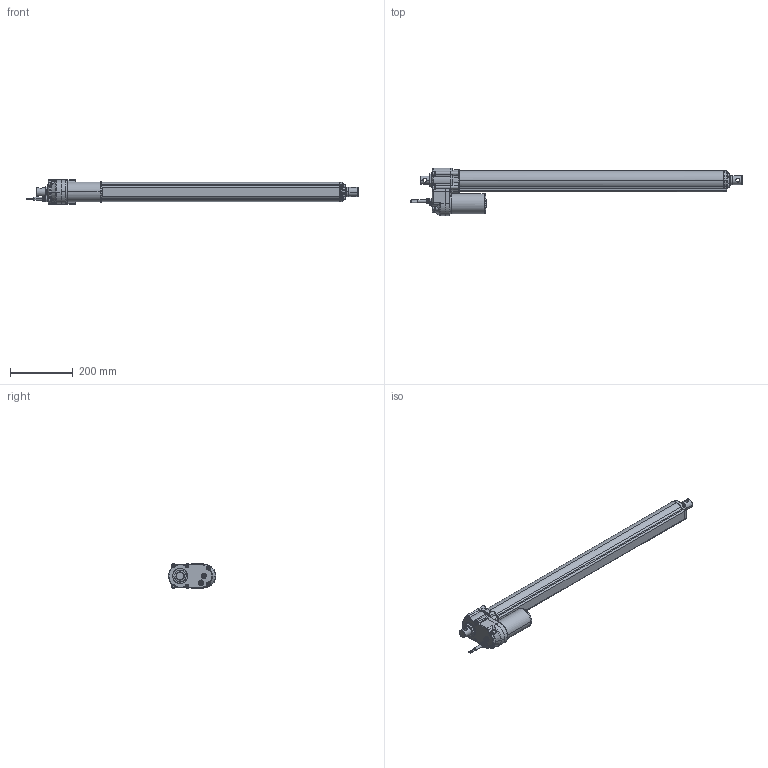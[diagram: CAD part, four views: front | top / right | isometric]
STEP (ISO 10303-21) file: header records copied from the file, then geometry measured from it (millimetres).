
FILE_DESCRIPTION(('STEP AP203'),'1');
FILE_NAME('LINACT-33P-700MM.stp','2025-11-20T12:31:31',('Linear Actuators S.A.'),('Linear Actuators South Africa (Pty) Ltd'),'Spatial InterOp 3D',' ',' ');
FILE_SCHEMA(('CONFIG_CONTROL_DESIGN'));
Length unit declared in the file: millimetre
Products named in the file (1): 1
Bounding box: 1061.27 x 151.4 x 79 mm (x, y, z)
Volume: 3953430.5 mm3; surface area: 269174.2 mm2
Topology: 1 solids, 1 shells, 940 faces, 2391 edges, 1467 vertices
Faces by surface type: torus 294, plane 239, cylinder 234, bspline 105, cone 66, sphere 2
Entity records: 41074 total; most frequent: CARTESIAN_POINT 19629, ORIENTED_EDGE 4728, DIRECTION 4260, EDGE_CURVE 2364, AXIS2_PLACEMENT_3D 1786, VERTEX_POINT 1467, EDGE_LOOP 985, CIRCLE 942
